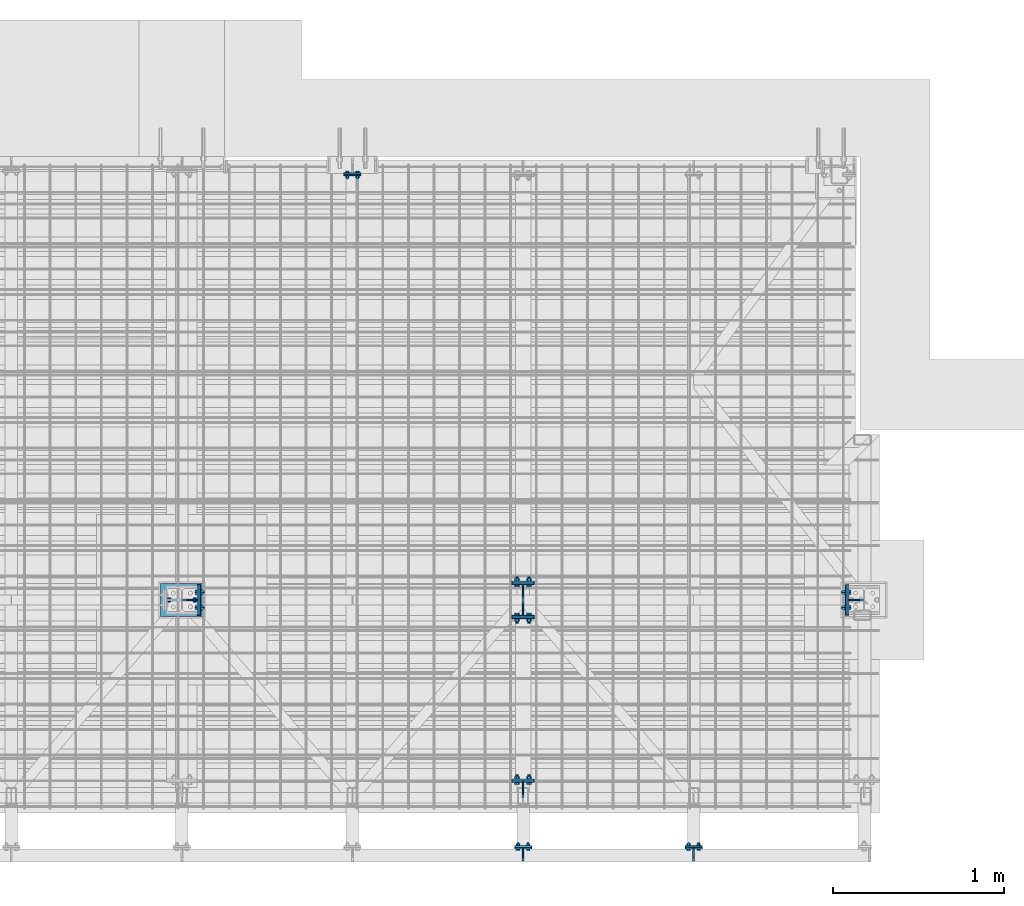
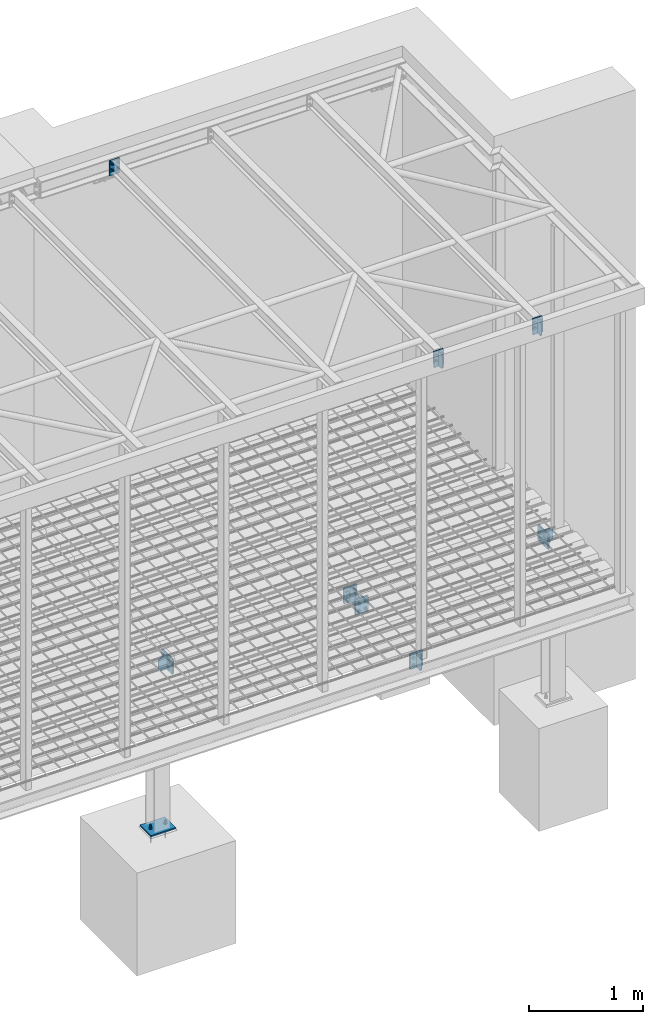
# One storey, part 22 of 26: 24 discrete accessories, 9 mechanical fasteners, 12 elements without a shape of their own.
"""IFC2X3 building model written with IfcOpenShell, lengths in millimetres."""

from ifc_helpers import new_model, si_unit, frame, frame_2d, origin_with_axes, origin_2d_with_axis, place, context, subcontext, project, spatial, polyline, circle_curve, parameter, trimmed, segment, composite_curve, circle, outline, extrude, source, transform, mapped, material, type_object, element, aggregate, save


model = new_model("IFC2X3")

# Units and contexts
model_context = context("Model", 3, precision=1e-05, world=origin_with_axes())
body_context = subcontext(model_context, "Body", "Model", "MODEL_VIEW")
ifc_project = project(units=[si_unit("LENGTHUNIT", "METRE", prefix="MILLI"), si_unit("AREAUNIT", "SQUARE_METRE"), si_unit("VOLUMEUNIT", "CUBIC_METRE"), si_unit("MASSUNIT", "GRAM", prefix="KILO"), si_unit("TIMEUNIT", "SECOND"), si_unit("PLANEANGLEUNIT", "RADIAN"), si_unit("SOLIDANGLEUNIT", "STERADIAN"), si_unit("THERMODYNAMICTEMPERATUREUNIT", "DEGREE_CELSIUS"), si_unit("LUMINOUSINTENSITYUNIT", "LUMEN")], contexts=[model_context])

# Site, building, storey
site_placement = place(None, origin_with_axes())
site = spatial("IfcSite", under=ifc_project, at=site_placement, Name="Undefined", CompositionType="ELEMENT")
building_placement = place(site_placement, origin_with_axes())
building = spatial("IfcBuilding", under=site, at=building_placement, Name="Undefined", CompositionType="ELEMENT")
storey_placement = place(building_placement, origin_with_axes())
storey = spatial("IfcBuildingStorey", under=building, at=storey_placement, Name="Undefined", CompositionType="ELEMENT", Elevation=0.0)

# Assembly, mechanical fastener
assembly_1_placement = place(storey_placement, origin_with_axes())
assembly_1 = element("IfcElementAssembly", 1, at=assembly_1_placement, inside=storey, Name="Steel Assembly", AssemblyPlace="NOTDEFINED", PredefinedType="RIGID_FRAME")
ifc_material_1 = material(Name="Undefined")
discrete_accessory_type_1 = type_object("IfcDiscreteAccessoryType", Name="Bolt assembly")
shared_shape_1 = source(origin_with_axes(), body_context, "Body", "SweptSolid", [
    extrude(circle(Radius=9.0, at=origin_2d_with_axis()), frame((0.0, -15.0, 0.0), z_axis=(0.0, 1.0, 0.0), x_axis=(1.0, 0.0, 0.0)), (0.0, 0.0, 1.0), 15.1),
    extrude(outline(polyline([(7.73649338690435, 0.0), (3.86824669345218, 6.69999980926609), (-3.86824669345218, 6.69999980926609), (-7.73649338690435, 0.0), (-3.86824669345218, -6.69999980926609), (3.86824669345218, -6.69999980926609), (7.73649338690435, 0.0)])), frame((0.0, -147.0, 0.0), z_axis=(0.0, 1.0, 0.0), x_axis=(1.0, 0.0, 0.0)), (0.0, 0.0, 1.0), 132.0),
    extrude(circle(Radius=8.0, at=origin_2d_with_axis()), frame((0.0, -15.0, 0.0), z_axis=(0.0, 1.0, 0.0), x_axis=(1.0, 0.0, 0.0)), (0.0, 0.0, 1.0), 58.0),
    extrude(circle(Radius=15.0, at=origin_2d_with_axis()), frame((0.0, 0.0, 0.0), z_axis=(0.0, 1.0, 0.0), x_axis=(1.0, 0.0, 0.0)), (0.0, 0.0, 1.0), 3.0),
    extrude(outline(polyline([(15.4441197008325, 0.0), (7.72205985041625, 13.3750000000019), (-7.72205985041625, 13.3750000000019), (-15.4441197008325, 0.0), (-7.72205985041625, -13.3750000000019), (7.72205985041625, -13.3750000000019), (15.4441197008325, 0.0)])), frame((0.0, 3.0, 0.0), z_axis=(0.0, 1.0, 0.0), x_axis=(1.0, 0.0, 0.0)), (0.0, 0.0, 1.0), 13.0),
])
mechanical_fastener_1_placement = place(assembly_1_placement, frame((11975.0, 1260.0, -1975.0), z_axis=(0.0, -1.0, 0.0), x_axis=(1.0, 0.0, 0.0)))
mechanical_fastener_1 = element("IfcMechanicalFastener", 2, at=mechanical_fastener_1_placement, type_object=discrete_accessory_type_1, material=ifc_material_1, Name="Bolt assembly", NominalDiameter=16.0, NominalLength=58.0, context=body_context, shape_type="MappedRepresentation", body=[
    mapped(shared_shape_1, transform((0.0, 0.0, 0.0))),
    mapped(shared_shape_1, transform((150.0, 0.0, 0.0))),
])

# Assembly, mechanical fasteners
assembly_2_placement = place(storey_placement, origin_with_axes())
assembly_2 = element("IfcElementAssembly", 3, at=assembly_2_placement, inside=storey, Name="Steel Assembly", AssemblyPlace="NOTDEFINED", PredefinedType="RIGID_FRAME")
shared_shape_2 = source(origin_with_axes(), body_context, "Body", "SweptSolid", [
    extrude(circle(Radius=9.0, at=origin_2d_with_axis()), frame((0.0, -0.1, 0.0), z_axis=(0.0, 1.0, 0.0), x_axis=(1.0, 0.0, 0.0)), (0.0, 0.0, 1.0), 10.1),
    extrude(circle(Radius=9.0, at=origin_2d_with_axis()), frame((0.0, -9.9, 0.0), z_axis=(0.0, 1.0, 0.0), x_axis=(1.0, 0.0, 0.0)), (0.0, 0.0, 1.0), 10.0),
    extrude(outline(polyline([(13.85640646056, 0.0), (6.92820323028, 12.0000000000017), (-6.92820323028, 12.0000000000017), (-13.85640646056, 0.0), (-6.92820323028, -12.0000000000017), (6.92820323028, -12.0000000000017), (13.85640646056, 0.0)])), frame((0.0, -23.0, 0.0), z_axis=(0.0, 1.0, 0.0), x_axis=(1.0, 0.0, 0.0)), (0.0, 0.0, 1.0), 10.0),
    extrude(circle(Radius=8.0, at=origin_2d_with_axis()), frame((0.0, -13.0, 0.0), z_axis=(0.0, 1.0, 0.0), x_axis=(1.0, 0.0, 0.0)), (0.0, 0.0, 1.0), 50.0),
    extrude(circle(Radius=15.0, at=origin_2d_with_axis()), frame((0.0, -13.0, 0.0), z_axis=(0.0, 1.0, 0.0), x_axis=(1.0, 0.0, 0.0)), (0.0, 0.0, 1.0), 3.0),
    extrude(circle(Radius=15.0, at=origin_2d_with_axis()), frame((0.0, 10.0, 0.0), z_axis=(0.0, 1.0, 0.0), x_axis=(1.0, 0.0, 0.0)), (0.0, 0.0, 1.0), 3.0),
    extrude(outline(polyline([(15.4441197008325, 0.0), (7.72205985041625, 13.3750000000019), (-7.72205985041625, 13.3750000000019), (-15.4441197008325, 0.0), (-7.72205985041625, -13.3750000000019), (7.72205985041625, -13.3750000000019), (15.4441197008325, 0.0)])), frame((0.0, 13.0, 0.0), z_axis=(0.0, 1.0, 0.0), x_axis=(1.0, 0.0, 0.0)), (0.0, 0.0, 1.0), 13.0),
])
mechanical_fastener_2_placement = place(assembly_2_placement, frame((14015.0, 1360.0, -250.0), z_axis=(0.0, 0.0, 1.0), x_axis=(1.0, 0.0, 0.0)))
mechanical_fastener_2 = element("IfcMechanicalFastener", 4, at=mechanical_fastener_2_placement, type_object=discrete_accessory_type_1, material=ifc_material_1, Name="Bolt assembly", NominalDiameter=16.0, NominalLength=50.0, context=body_context, shape_type="MappedRepresentation", body=[
    mapped(shared_shape_2, transform((0.0, 0.0, -40.0))),
    mapped(shared_shape_2, transform((70.0, 0.0, -40.0))),
    mapped(shared_shape_2, transform((0.0, 0.0, 40.0))),
    mapped(shared_shape_2, transform((70.0, 0.0, 40.0))),
])
mechanical_fastener_3_placement = place(assembly_2_placement, frame((14015.0, 1160.0, -250.0), z_axis=(0.0, 0.0, -1.0), x_axis=(1.0, 0.0, 0.0)))
mechanical_fastener_3 = element("IfcMechanicalFastener", 5, at=mechanical_fastener_3_placement, type_object=discrete_accessory_type_1, material=ifc_material_1, Name="Bolt assembly", NominalDiameter=16.0, NominalLength=50.0, context=body_context, shape_type="MappedRepresentation", body=[
    mapped(shared_shape_2, transform((0.0, 0.0, 40.0))),
    mapped(shared_shape_2, transform((70.0, 0.0, 40.0))),
    mapped(shared_shape_2, transform((0.0, 0.0, -40.0))),
    mapped(shared_shape_2, transform((70.0, 0.0, -40.0))),
])

# Assembly, mechanical fastener
assembly_3_placement = place(storey_placement, origin_with_axes())
assembly_3 = element("IfcElementAssembly", 6, at=assembly_3_placement, inside=storey, Name="Steel Assembly", AssemblyPlace="NOTDEFINED", PredefinedType="RIGID_FRAME")
mechanical_fastener_4_placement = place(assembly_3_placement, frame((14015.0, 200.0, -250.0), z_axis=(0.0, 0.0, 1.0), x_axis=(1.0, 0.0, 0.0)))
mechanical_fastener_4 = element("IfcMechanicalFastener", 7, at=mechanical_fastener_4_placement, type_object=discrete_accessory_type_1, material=ifc_material_1, Name="Bolt assembly", NominalDiameter=16.0, NominalLength=50.0, context=body_context, shape_type="MappedRepresentation", body=[
    mapped(shared_shape_2, transform((0.0, 0.0, -40.0))),
    mapped(shared_shape_2, transform((70.0, 0.0, -40.0))),
    mapped(shared_shape_2, transform((0.0, 0.0, 40.0))),
    mapped(shared_shape_2, transform((70.0, 0.0, 40.0))),
])

# Discrete accessory
ifc_material_2 = material(Name="STEEL/S235JR")
discrete_accessory_type_2 = type_object("IfcDiscreteAccessoryType", Name="PLECH")
discrete_accessory_1_placement = place(assembly_2_placement, frame((13985.0, 1355.0, -168.0), z_axis=(0.0, 1.0, 0.0), x_axis=(1.0, 0.0, 0.0)))
discrete_accessory_1 = element("IfcDiscreteAccessory", 8, at=discrete_accessory_1_placement, type_object=discrete_accessory_type_2, material=ifc_material_2, Name="PLECH", ObjectType="PL10*130", context=body_context, shape_type="SweptSolid", body=[
    extrude(outline(polyline([(0.0, 0.0), (130.0, 0.0), (130.0, 164.0), (0.0, 164.0), (0.0, 0.0)])), frame((0.0, 0.0, -5.0), z_axis=(0.0, 0.0, 1.0), x_axis=(1.0, 0.0, 0.0)), (0.0, 0.0, 1.0), 10.0),
])

discrete_accessory_2_placement = place(assembly_2_placement, frame((14050.0, 1350.0, -174.0), z_axis=(1.0, 0.0, 0.0), x_axis=(0.0, -1.0, 0.0)))
discrete_accessory_2 = element("IfcDiscreteAccessory", 9, at=discrete_accessory_2_placement, type_object=discrete_accessory_type_2, material=ifc_material_2, Name="PLECH", ObjectType="PL8*86", context=body_context, shape_type="SweptSolid", body=[
    extrude(outline(composite_curve([segment(polyline([(0.0, 0.0), (65.75, 0.0)]), True, "CONTINUOUS"), segment(trimmed(circle_curve(frame_2d((85.75, 0.0), x_axis=(-1.0, 0.0)), 20.0), [parameter(0.0)], [parameter(4.71238898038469)], False, "PARAMETER"), True, "CONTINUOUS"), segment(polyline([(85.75, 20.0), (85.75, 132.0)]), True, "CONTINUOUS"), segment(trimmed(circle_curve(frame_2d((85.75, 152.0), x_axis=(0.0, -1.0)), 20.0), [parameter(0.0)], [parameter(4.71238898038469)], False, "PARAMETER"), True, "CONTINUOUS"), segment(polyline([(65.75, 152.0), (0.0, 152.0), (0.0, 0.0)]), True, "DISCONTINUOUS")], self_intersect=False)), frame((0.0, 0.0, -4.0), z_axis=(0.0, 0.0, 1.0), x_axis=(1.0, 0.0, 0.0)), (0.0, 0.0, 1.0), 8.0),
])

# Assembly, discrete accessory
assembly_4_placement = place(storey_placement, origin_with_axes())
assembly_4 = element("IfcElementAssembly", 10, at=assembly_4_placement, inside=storey, Name="Steel Assembly", AssemblyPlace="NOTDEFINED", PredefinedType="RIGID_FRAME")
discrete_accessory_3_placement = place(assembly_4_placement, frame((13985.0, 1365.0, -168.0), z_axis=(0.0, 1.0, 0.0), x_axis=(1.0, 0.0, 0.0)))
discrete_accessory_3 = element("IfcDiscreteAccessory", 11, at=discrete_accessory_3_placement, type_object=discrete_accessory_type_2, material=ifc_material_2, Name="PLECH", ObjectType="PL10*130", context=body_context, shape_type="SweptSolid", body=[
    extrude(outline(polyline([(0.0, 0.0), (130.0, 0.0), (130.0, 164.0), (0.0, 164.0), (0.0, 0.0)])), frame((0.0, 0.0, -5.0), z_axis=(0.0, 0.0, 1.0), x_axis=(1.0, 0.0, 0.0)), (0.0, 0.0, 1.0), 10.0),
])
aggregate(assembly_4, [discrete_accessory_3])

# Discrete accessory
discrete_accessory_4_placement = place(assembly_2_placement, frame((13985.0, 1165.0, -168.0), z_axis=(0.0, 1.0, 0.0), x_axis=(1.0, 0.0, 0.0)))
discrete_accessory_4 = element("IfcDiscreteAccessory", 12, at=discrete_accessory_4_placement, type_object=discrete_accessory_type_2, material=ifc_material_2, Name="PLECH", ObjectType="PL10*130", context=body_context, shape_type="SweptSolid", body=[
    extrude(outline(polyline([(0.0, 0.0), (130.0, 0.0), (130.0, 164.0), (0.0, 164.0), (0.0, 0.0)])), frame((0.0, 0.0, -5.0), z_axis=(0.0, 0.0, 1.0), x_axis=(1.0, 0.0, 0.0)), (0.0, 0.0, 1.0), 10.0),
])

discrete_accessory_5_placement = place(assembly_2_placement, frame((14050.0, 1170.0, -174.0), z_axis=(-1.0, 0.0, 0.0), x_axis=(0.0, 1.0, 0.0)))
discrete_accessory_5 = element("IfcDiscreteAccessory", 13, at=discrete_accessory_5_placement, type_object=discrete_accessory_type_2, material=ifc_material_2, Name="PLECH", ObjectType="PL8*86", context=body_context, shape_type="SweptSolid", body=[
    extrude(outline(composite_curve([segment(polyline([(0.0, 0.0), (65.75, 0.0)]), True, "CONTINUOUS"), segment(trimmed(circle_curve(frame_2d((85.75, 0.0), x_axis=(-1.0, 0.0)), 20.0), [parameter(0.0)], [parameter(4.71238898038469)], False, "PARAMETER"), True, "CONTINUOUS"), segment(polyline([(85.75, 20.0), (85.75, 132.0)]), True, "CONTINUOUS"), segment(trimmed(circle_curve(frame_2d((85.75, 152.0), x_axis=(0.0, -1.0)), 20.0), [parameter(0.0)], [parameter(4.71238898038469)], False, "PARAMETER"), True, "CONTINUOUS"), segment(polyline([(65.75, 152.0), (0.0, 152.0), (0.0, 0.0)]), True, "DISCONTINUOUS")], self_intersect=False)), frame((0.0, 0.0, -4.0), z_axis=(0.0, 0.0, 1.0), x_axis=(1.0, 0.0, 0.0)), (0.0, 0.0, 1.0), 8.0),
])

# Assembly, discrete accessory
assembly_5_placement = place(storey_placement, origin_with_axes())
assembly_5 = element("IfcElementAssembly", 14, at=assembly_5_placement, inside=storey, Name="Steel Assembly", AssemblyPlace="NOTDEFINED", PredefinedType="RIGID_FRAME")
discrete_accessory_6_placement = place(assembly_5_placement, frame((13985.0, 1155.0, -168.0), z_axis=(0.0, 1.0, 0.0), x_axis=(1.0, 0.0, 0.0)))
discrete_accessory_6 = element("IfcDiscreteAccessory", 15, at=discrete_accessory_6_placement, type_object=discrete_accessory_type_2, material=ifc_material_2, Name="PLECH", ObjectType="PL10*130", context=body_context, shape_type="SweptSolid", body=[
    extrude(outline(polyline([(0.0, 0.0), (130.0, 0.0), (130.0, 164.0), (0.0, 164.0), (0.0, 0.0)])), frame((0.0, 0.0, -5.0), z_axis=(0.0, 0.0, 1.0), x_axis=(1.0, 0.0, 0.0)), (0.0, 0.0, 1.0), 10.0),
])

# Discrete accessory
discrete_accessory_7_placement = place(assembly_3_placement, frame((13985.0, 195.0, -168.0), z_axis=(0.0, 1.0, 0.0), x_axis=(1.0, 0.0, 0.0)))
discrete_accessory_7 = element("IfcDiscreteAccessory", 16, at=discrete_accessory_7_placement, type_object=discrete_accessory_type_2, material=ifc_material_2, Name="PLECH", ObjectType="PL10*130", context=body_context, shape_type="SweptSolid", body=[
    extrude(outline(polyline([(0.0, 0.0), (130.0, 0.0), (130.0, 164.0), (0.0, 164.0), (0.0, 0.0)])), frame((0.0, 0.0, -5.0), z_axis=(0.0, 0.0, 1.0), x_axis=(1.0, 0.0, 0.0)), (0.0, 0.0, 1.0), 10.0),
])

discrete_accessory_8_placement = place(assembly_3_placement, frame((14050.0, 190.0, -174.0), z_axis=(1.0, 0.0, 0.0), x_axis=(0.0, -1.0, 0.0)))
discrete_accessory_8 = element("IfcDiscreteAccessory", 17, at=discrete_accessory_8_placement, type_object=discrete_accessory_type_2, material=ifc_material_2, Name="PLECH", ObjectType="PL8*86", context=body_context, shape_type="SweptSolid", body=[
    extrude(outline(composite_curve([segment(polyline([(0.0, 0.0), (65.75, 0.0)]), True, "CONTINUOUS"), segment(trimmed(circle_curve(frame_2d((85.75, 0.0), x_axis=(-1.0, 0.0)), 20.0), [parameter(0.0)], [parameter(4.71238898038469)], False, "PARAMETER"), True, "CONTINUOUS"), segment(polyline([(85.75, 20.0), (85.75, 132.0)]), True, "CONTINUOUS"), segment(trimmed(circle_curve(frame_2d((85.75, 152.0), x_axis=(0.0, -1.0)), 20.0), [parameter(0.0)], [parameter(4.71238898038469)], False, "PARAMETER"), True, "CONTINUOUS"), segment(polyline([(65.75, 152.0), (0.0, 152.0), (0.0, 0.0)]), True, "DISCONTINUOUS")], self_intersect=False)), frame((0.0, 0.0, -4.0), z_axis=(0.0, 0.0, 1.0), x_axis=(1.0, 0.0, 0.0)), (0.0, 0.0, 1.0), 8.0),
])

aggregate(assembly_3, [mechanical_fastener_4, discrete_accessory_7, discrete_accessory_8])

discrete_accessory_9_placement = place(assembly_5_placement, frame((13985.0, 205.0, -168.0), z_axis=(0.0, 1.0, 0.0), x_axis=(1.0, 0.0, 0.0)))
discrete_accessory_9 = element("IfcDiscreteAccessory", 18, at=discrete_accessory_9_placement, type_object=discrete_accessory_type_2, material=ifc_material_2, Name="PLECH", ObjectType="PL10*130", context=body_context, shape_type="SweptSolid", body=[
    extrude(outline(polyline([(0.0, 0.0), (130.0, 0.0), (130.0, 164.0), (0.0, 164.0), (0.0, 0.0)])), frame((0.0, 0.0, -5.0), z_axis=(0.0, 0.0, 1.0), x_axis=(1.0, 0.0, 0.0)), (0.0, 0.0, 1.0), 10.0),
])

aggregate(assembly_5, [discrete_accessory_6, discrete_accessory_9])

discrete_accessory_10_placement = place(assembly_2_placement, frame((15945.0, 1170.0, -326.0), z_axis=(-1.0, 0.0, 0.0), x_axis=(0.0, 0.0, 1.0)))
discrete_accessory_10 = element("IfcDiscreteAccessory", 19, at=discrete_accessory_10_placement, type_object=discrete_accessory_type_2, material=ifc_material_2, Name="PLECH", ObjectType="PL10*152", context=body_context, shape_type="SweptSolid", body=[
    extrude(outline(polyline([(0.0, 0.0), (152.0, 4.54747350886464e-13), (152.0, 180.0), (-5.6843418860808e-14, 180.0), (0.0, 0.0)])), frame((0.0, 0.0, -5.0), z_axis=(0.0, 0.0, 1.0), x_axis=(1.0, 0.0, 0.0)), (0.0, 0.0, 1.0), 10.0),
])

# Assembly, discrete accessory
assembly_6_placement = place(storey_placement, origin_with_axes())
assembly_6 = element("IfcElementAssembly", 20, at=assembly_6_placement, inside=storey, Name="Steel Assembly", AssemblyPlace="NOTDEFINED", PredefinedType="RIGID_FRAME")
discrete_accessory_11_placement = place(assembly_6_placement, frame((15050.0, -200.0, 3289.5), z_axis=(1.0, 0.0, 0.0), x_axis=(0.0, -1.0, 0.0)))
discrete_accessory_11 = element("IfcDiscreteAccessory", 21, at=discrete_accessory_11_placement, type_object=discrete_accessory_type_2, material=ifc_material_2, Name="PLECH", ObjectType="PL8*70", context=body_context, shape_type="SweptSolid", body=[
    extrude(outline(composite_curve([segment(polyline([(0.0, 0.0), (49.5, 0.0)]), True, "CONTINUOUS"), segment(trimmed(circle_curve(frame_2d((69.5, 0.0), x_axis=(-1.0, 0.0)), 20.0), [parameter(0.0)], [parameter(4.71238898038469)], False, "PARAMETER"), True, "CONTINUOUS"), segment(polyline([(69.5, 20.0), (69.5, 139.0)]), True, "CONTINUOUS"), segment(trimmed(circle_curve(frame_2d((69.5, 159.0), x_axis=(0.0, -1.0)), 20.0), [parameter(0.0)], [parameter(4.71238898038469)], False, "PARAMETER"), True, "CONTINUOUS"), segment(polyline([(49.5, 159.0), (-3.63797880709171e-12, 159.0), (0.0, 0.0)]), True, "DISCONTINUOUS")], self_intersect=False)), frame((0.0, 0.0, -4.0), z_axis=(0.0, 0.0, 1.0), x_axis=(1.0, 0.0, 0.0)), (0.0, 0.0, 1.0), 8.0),
])

assembly_7_placement = place(storey_placement, origin_with_axes())
assembly_7 = element("IfcElementAssembly", 22, at=assembly_7_placement, inside=storey, Name="Steel Assembly", AssemblyPlace="NOTDEFINED", PredefinedType="RIGID_FRAME")
discrete_accessory_12_placement = place(assembly_7_placement, frame((15000.0, -185.0, 3166.5), z_axis=(0.0, 1.0, 0.0), x_axis=(0.0, 0.0, 1.0)))
discrete_accessory_12 = element("IfcDiscreteAccessory", 23, at=discrete_accessory_12_placement, type_object=discrete_accessory_type_2, material=ifc_material_2, Name="PLECH", ObjectType="PL10*100", context=body_context, shape_type="SweptSolid", body=[
    extrude(outline(polyline([(0.0, 0.0), (127.0, 0.0), (127.0, 100.0), (-9.09494701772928e-13, 100.0), (0.0, 0.0)])), frame((0.0, 0.0, -5.0), z_axis=(0.0, 0.0, 1.0), x_axis=(1.0, 0.0, 0.0)), (0.0, 0.0, 1.0), 10.0),
])
aggregate(assembly_7, [discrete_accessory_12])

# Discrete accessory
discrete_accessory_13_placement = place(assembly_6_placement, frame((15000.0, -195.0, 3127.5), z_axis=(0.0, 1.0, 0.0), x_axis=(0.0, 0.0, 1.0)))
discrete_accessory_13 = element("IfcDiscreteAccessory", 24, at=discrete_accessory_13_placement, type_object=discrete_accessory_type_2, material=ifc_material_2, Name="PLECH", ObjectType="PL10*100", context=body_context, shape_type="SweptSolid", body=[
    extrude(outline(polyline([(0.0, 0.0), (166.000015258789, 0.0), (166.000015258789, 100.0), (-9.09494701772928e-13, 100.0), (0.0, 0.0)])), frame((0.0, 0.0, -5.0), z_axis=(0.0, 0.0, 1.0), x_axis=(1.0, 0.0, 0.0)), (0.0, 0.0, 1.0), 10.0),
])

discrete_accessory_14_placement = place(assembly_6_placement, frame((14050.0, -200.0, 3289.5), z_axis=(1.0, 0.0, 0.0), x_axis=(0.0, -1.0, 0.0)))
discrete_accessory_14 = element("IfcDiscreteAccessory", 25, at=discrete_accessory_14_placement, type_object=discrete_accessory_type_2, material=ifc_material_2, Name="PLECH", ObjectType="PL8*70", context=body_context, shape_type="SweptSolid", body=[
    extrude(outline(composite_curve([segment(polyline([(0.0, 0.0), (49.5, 0.0)]), True, "CONTINUOUS"), segment(trimmed(circle_curve(frame_2d((69.5, 0.0), x_axis=(-1.0, 0.0)), 20.0), [parameter(0.0)], [parameter(4.71238898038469)], False, "PARAMETER"), True, "CONTINUOUS"), segment(polyline([(69.5, 20.0), (69.5, 139.0)]), True, "CONTINUOUS"), segment(trimmed(circle_curve(frame_2d((69.5, 159.0), x_axis=(0.0, -1.0)), 20.0), [parameter(0.0)], [parameter(4.71238898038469)], False, "PARAMETER"), True, "CONTINUOUS"), segment(polyline([(49.5, 159.0), (-3.63797880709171e-12, 159.0), (0.0, 0.0)]), True, "DISCONTINUOUS")], self_intersect=False)), frame((0.0, 0.0, -4.0), z_axis=(0.0, 0.0, 1.0), x_axis=(1.0, 0.0, 0.0)), (0.0, 0.0, 1.0), 8.0),
])

# Assembly, discrete accessory
assembly_8_placement = place(storey_placement, origin_with_axes())
assembly_8 = element("IfcElementAssembly", 26, at=assembly_8_placement, inside=storey, Name="Steel Assembly", AssemblyPlace="NOTDEFINED", PredefinedType="RIGID_FRAME")
discrete_accessory_15_placement = place(assembly_8_placement, frame((14000.0, -185.0, 3166.5), z_axis=(0.0, 1.0, 0.0), x_axis=(0.0, 0.0, 1.0)))
discrete_accessory_15 = element("IfcDiscreteAccessory", 27, at=discrete_accessory_15_placement, type_object=discrete_accessory_type_2, material=ifc_material_2, Name="PLECH", ObjectType="PL10*100", context=body_context, shape_type="SweptSolid", body=[
    extrude(outline(polyline([(0.0, 0.0), (127.0, 0.0), (127.0, 100.0), (-9.09494701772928e-13, 100.0), (0.0, 0.0)])), frame((0.0, 0.0, -5.0), z_axis=(0.0, 0.0, 1.0), x_axis=(1.0, 0.0, 0.0)), (0.0, 0.0, 1.0), 10.0),
])
aggregate(assembly_8, [discrete_accessory_15])

# Discrete accessory
discrete_accessory_16_placement = place(assembly_6_placement, frame((14000.0, -195.0, 3127.5), z_axis=(0.0, 1.0, 0.0), x_axis=(0.0, 0.0, 1.0)))
discrete_accessory_16 = element("IfcDiscreteAccessory", 28, at=discrete_accessory_16_placement, type_object=discrete_accessory_type_2, material=ifc_material_2, Name="PLECH", ObjectType="PL10*100", context=body_context, shape_type="SweptSolid", body=[
    extrude(outline(polyline([(0.0, 0.0), (166.000015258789, 0.0), (166.000015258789, 100.0), (-9.09494701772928e-13, 100.0), (0.0, 0.0)])), frame((0.0, 0.0, -5.0), z_axis=(0.0, 0.0, 1.0), x_axis=(1.0, 0.0, 0.0)), (0.0, 0.0, 1.0), 10.0),
])

# Assembly, discrete accessories
assembly_9_placement = place(storey_placement, origin_with_axes())
assembly_9 = element("IfcElementAssembly", 29, at=assembly_9_placement, inside=storey, Name="Steel Assembly", AssemblyPlace="NOTDEFINED", PredefinedType="RIGID_FRAME")
discrete_accessory_17_placement = place(assembly_9_placement, frame((15960.0, 1260.0, -174.0), z_axis=(0.0, 1.0, 0.0), x_axis=(1.0, 0.0, 0.0)))
discrete_accessory_17 = element("IfcDiscreteAccessory", 30, at=discrete_accessory_17_placement, type_object=discrete_accessory_type_2, material=ifc_material_2, Name="PLECH", ObjectType="PL8*86", context=body_context, shape_type="SweptSolid", body=[
    extrude(outline(composite_curve([segment(polyline([(0.0, 0.0), (60.5, 0.0)]), True, "CONTINUOUS"), segment(trimmed(circle_curve(frame_2d((85.5, 0.0), x_axis=(-1.0, 0.0)), 25.0), [parameter(0.0)], [parameter(4.71238898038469)], False, "PARAMETER"), True, "CONTINUOUS"), segment(polyline([(85.5, 25.0), (85.5, 127.0)]), True, "CONTINUOUS"), segment(trimmed(circle_curve(frame_2d((85.5, 152.0), x_axis=(0.0, -1.0)), 25.0), [parameter(0.0)], [parameter(4.71238898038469)], False, "PARAMETER"), True, "CONTINUOUS"), segment(polyline([(60.5, 152.0), (0.0, 152.0), (0.0, 0.0)]), True, "DISCONTINUOUS")], self_intersect=False)), frame((0.0, 0.0, -4.0), z_axis=(0.0, 0.0, 1.0), x_axis=(1.0, 0.0, 0.0)), (0.0, 0.0, 1.0), 8.0),
])
discrete_accessory_18_placement = place(assembly_9_placement, frame((15955.0, 1170.0, -332.0), z_axis=(-1.0, 0.0, 0.0), x_axis=(0.0, 0.0, 1.0)))
discrete_accessory_18 = element("IfcDiscreteAccessory", 31, at=discrete_accessory_18_placement, type_object=discrete_accessory_type_2, material=ifc_material_2, Name="PLECH", ObjectType="PL10*164", context=body_context, shape_type="SweptSolid", body=[
    extrude(outline(polyline([(0.0, 0.0), (164.0, 4.54747350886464e-13), (164.0, 180.0), (-5.6843418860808e-14, 180.0), (0.0, 0.0)])), frame((0.0, 0.0, -5.0), z_axis=(0.0, 0.0, 1.0), x_axis=(1.0, 0.0, 0.0)), (0.0, 0.0, 1.0), 10.0),
])

# Discrete accessory
discrete_accessory_19_placement = place(assembly_2_placement, frame((12155.0, 1170.0, -326.0), z_axis=(-1.0, 0.0, 0.0), x_axis=(0.0, 0.0, 1.0)))
discrete_accessory_19 = element("IfcDiscreteAccessory", 32, at=discrete_accessory_19_placement, type_object=discrete_accessory_type_2, material=ifc_material_2, Name="PLECH", ObjectType="PL10*152", context=body_context, shape_type="SweptSolid", body=[
    extrude(outline(polyline([(0.0, 0.0), (152.0, 4.54747350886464e-13), (152.0, 180.0), (-5.6843418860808e-14, 180.0), (0.0, 0.0)])), frame((0.0, 0.0, -5.0), z_axis=(0.0, 0.0, 1.0), x_axis=(1.0, 0.0, 0.0)), (0.0, 0.0, 1.0), 10.0),
])

aggregate(assembly_2, [mechanical_fastener_2, discrete_accessory_1, discrete_accessory_2, mechanical_fastener_3, discrete_accessory_4, discrete_accessory_5, discrete_accessory_10, discrete_accessory_19])

# Assembly, discrete accessories
assembly_10_placement = place(storey_placement, origin_with_axes())
assembly_10 = element("IfcElementAssembly", 33, at=assembly_10_placement, inside=storey, Name="Steel Assembly", AssemblyPlace="NOTDEFINED", PredefinedType="RIGID_FRAME")
discrete_accessory_20_placement = place(assembly_10_placement, frame((12140.0, 1260.0, -174.0), z_axis=(0.0, -1.0, 0.0), x_axis=(-1.0, 0.0, 0.0)))
discrete_accessory_20 = element("IfcDiscreteAccessory", 34, at=discrete_accessory_20_placement, type_object=discrete_accessory_type_2, material=ifc_material_2, Name="PLECH", ObjectType="PL8*86", context=body_context, shape_type="SweptSolid", body=[
    extrude(outline(composite_curve([segment(polyline([(0.0, 0.0), (60.5, 0.0)]), True, "CONTINUOUS"), segment(trimmed(circle_curve(frame_2d((85.5, 0.0), x_axis=(-1.0, 0.0)), 25.0), [parameter(0.0)], [parameter(4.71238898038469)], False, "PARAMETER"), True, "CONTINUOUS"), segment(polyline([(85.5, 25.0), (85.5, 127.0)]), True, "CONTINUOUS"), segment(trimmed(circle_curve(frame_2d((85.5, 152.0), x_axis=(0.0, -1.0)), 25.0), [parameter(0.0)], [parameter(4.71238898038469)], False, "PARAMETER"), True, "CONTINUOUS"), segment(polyline([(60.5, 152.0), (0.0, 152.0), (0.0, 0.0)]), True, "DISCONTINUOUS")], self_intersect=False)), frame((0.0, 0.0, -4.0), z_axis=(0.0, 0.0, 1.0), x_axis=(1.0, 0.0, 0.0)), (0.0, 0.0, 1.0), 8.0),
])
discrete_accessory_21_placement = place(assembly_10_placement, frame((12145.0, 1170.0, -332.0), z_axis=(-1.0, 0.0, 0.0), x_axis=(0.0, 0.0, 1.0)))
discrete_accessory_21 = element("IfcDiscreteAccessory", 35, at=discrete_accessory_21_placement, type_object=discrete_accessory_type_2, material=ifc_material_2, Name="PLECH", ObjectType="PL10*164", context=body_context, shape_type="SweptSolid", body=[
    extrude(outline(polyline([(0.0, 0.0), (164.0, 4.54747350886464e-13), (164.0, 180.0), (-5.6843418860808e-14, 180.0), (0.0, 0.0)])), frame((0.0, 0.0, -5.0), z_axis=(0.0, 0.0, 1.0), x_axis=(1.0, 0.0, 0.0)), (0.0, 0.0, 1.0), 10.0),
])

# Discrete accessory
discrete_accessory_22_placement = place(assembly_1_placement, frame((12175.0, 1356.0, -1982.5), z_axis=(0.0, 0.0, 1.0), x_axis=(-1.0, 0.0, 0.0)))
discrete_accessory_22 = element("IfcDiscreteAccessory", 36, at=discrete_accessory_22_placement, type_object=discrete_accessory_type_2, material=ifc_material_2, Name="PLECH", ObjectType="PL15*192", context=body_context, shape_type="SweptSolid", body=[
    extrude(outline(polyline([(0.0, 0.0), (250.0, 0.0), (250.0, 192.0), (0.0, 192.0), (0.0, 0.0)])), frame((0.0, 0.0, -7.5), z_axis=(0.0, 0.0, 1.0), x_axis=(1.0, 0.0, 0.0)), (0.0, 0.0, 1.0), 15.0),
])

aggregate(assembly_1, [mechanical_fastener_1, discrete_accessory_22])

# Assembly, discrete accessory
assembly_11_placement = place(storey_placement, origin_with_axes())
assembly_11 = element("IfcElementAssembly", 37, at=assembly_11_placement, inside=storey, Name="Steel Assembly", AssemblyPlace="NOTDEFINED", PredefinedType="RIGID_FRAME")
discrete_accessory_23_placement = place(assembly_11_placement, frame((13000.0, 3751.0, 3175.0), z_axis=(0.0, 1.0, 0.0), x_axis=(0.0, 0.0, 1.0)))
discrete_accessory_23 = element("IfcDiscreteAccessory", 38, at=discrete_accessory_23_placement, type_object=discrete_accessory_type_2, material=ifc_material_2, Name="PLECH", ObjectType="PL8*100", context=body_context, shape_type="SweptSolid", body=[
    extrude(outline(polyline([(0.0, 0.0), (110.0, 0.0), (110.0, 100.0), (-9.09494701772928e-13, 100.0), (0.0, 0.0)])), frame((0.0, 0.0, -4.0), z_axis=(0.0, 0.0, 1.0), x_axis=(1.0, 0.0, 0.0)), (0.0, 0.0, 1.0), 8.0),
])
aggregate(assembly_11, [discrete_accessory_23])

assembly_12_placement = place(storey_placement, origin_with_axes())
assembly_12 = element("IfcElementAssembly", 39, at=assembly_12_placement, inside=storey, Name="Steel Assembly", AssemblyPlace="NOTDEFINED", PredefinedType="RIGID_FRAME")
discrete_accessory_24_placement = place(assembly_12_placement, frame((13000.0, 3760.0, 3128.0), z_axis=(0.0, 1.0, 0.0), x_axis=(0.0, 0.0, 1.0)))
discrete_accessory_24 = element("IfcDiscreteAccessory", 40, at=discrete_accessory_24_placement, type_object=discrete_accessory_type_2, material=ifc_material_2, Name="PLECH", ObjectType="PL10*100", context=body_context, shape_type="SweptSolid", body=[
    extrude(outline(polyline([(0.0, 0.0), (164.0, 4.54747350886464e-13), (164.0, 100.0), (-9.09494701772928e-13, 100.0), (0.0, 0.0)])), frame((0.0, 0.0, -5.0), z_axis=(0.0, 0.0, 1.0), x_axis=(1.0, 0.0, 0.0)), (0.0, 0.0, 1.0), 10.0),
])

# Mechanical fastener
shared_shape_3 = source(origin_with_axes(), body_context, "Body", "SweptSolid", [
    extrude(circle(Radius=8.5, at=origin_2d_with_axis()), frame((0.0, -4.1, 0.0), z_axis=(0.0, 1.0, 0.0), x_axis=(1.0, 0.0, 0.0)), (0.0, 0.0, 1.0), 10.1),
    extrude(circle(Radius=8.5, at=origin_2d_with_axis()), frame((0.0, -13.9, 0.0), z_axis=(0.0, 1.0, 0.0), x_axis=(1.0, 0.0, 0.0)), (0.0, 0.0, 1.0), 10.0),
    extrude(outline(polyline([(13.85640646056, 0.0), (6.92820323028, 12.0000000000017), (-6.92820323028, 12.0000000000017), (-13.85640646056, 0.0), (-6.92820323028, -12.0000000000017), (6.92820323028, -12.0000000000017), (13.85640646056, 0.0)])), frame((0.0, -27.0, 0.0), z_axis=(0.0, 1.0, 0.0), x_axis=(1.0, 0.0, 0.0)), (0.0, 0.0, 1.0), 10.0),
    extrude(circle(Radius=8.0, at=origin_2d_with_axis()), frame((0.0, -17.0, 0.0), z_axis=(0.0, 1.0, 0.0), x_axis=(1.0, 0.0, 0.0)), (0.0, 0.0, 1.0), 45.0),
    extrude(circle(Radius=15.0, at=origin_2d_with_axis()), frame((0.0, -17.0, 0.0), z_axis=(0.0, 1.0, 0.0), x_axis=(1.0, 0.0, 0.0)), (0.0, 0.0, 1.0), 3.0),
    extrude(circle(Radius=15.0, at=origin_2d_with_axis()), frame((0.0, 6.0, 0.0), z_axis=(0.0, 1.0, 0.0), x_axis=(1.0, 0.0, 0.0)), (0.0, 0.0, 1.0), 3.0),
    extrude(outline(polyline([(15.4441197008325, 0.0), (7.72205985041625, 13.3750000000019), (-7.72205985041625, 13.3750000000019), (-15.4441197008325, 0.0), (-7.72205985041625, -13.3750000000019), (7.72205985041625, -13.3750000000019), (15.4441197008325, 0.0)])), frame((0.0, 9.0, 0.0), z_axis=(0.0, 1.0, 0.0), x_axis=(1.0, 0.0, 0.0)), (0.0, 0.0, 1.0), 13.0),
])
mechanical_fastener_5_placement = place(assembly_9_placement, frame((15946.0, 1260.0, -210.0), z_axis=(0.0, 1.0, 0.0), x_axis=(0.0, 0.0, -1.0)))
mechanical_fastener_5 = element("IfcMechanicalFastener", 41, at=mechanical_fastener_5_placement, type_object=discrete_accessory_type_1, material=ifc_material_1, Name="Bolt assembly", NominalDiameter=16.0, NominalLength=45.0, context=body_context, shape_type="MappedRepresentation", body=[
    mapped(shared_shape_3, transform((0.0, 0.0, -45.0))),
    mapped(shared_shape_3, transform((80.0, 0.0, -45.0))),
    mapped(shared_shape_3, transform((0.0, 0.0, 45.0))),
    mapped(shared_shape_3, transform((80.0, 0.0, 45.0))),
])

aggregate(assembly_9, [mechanical_fastener_5, discrete_accessory_17, discrete_accessory_18])

mechanical_fastener_6_placement = place(assembly_10_placement, frame((12154.0, 1260.0, -210.0), z_axis=(0.0, -1.0, 0.0), x_axis=(0.0, 0.0, -1.0)))
mechanical_fastener_6 = element("IfcMechanicalFastener", 42, at=mechanical_fastener_6_placement, type_object=discrete_accessory_type_1, material=ifc_material_1, Name="Bolt assembly", NominalDiameter=16.0, NominalLength=45.0, context=body_context, shape_type="MappedRepresentation", body=[
    mapped(shared_shape_3, transform((0.0, 0.0, -45.0))),
    mapped(shared_shape_3, transform((80.0, 0.0, -45.0))),
    mapped(shared_shape_3, transform((0.0, 0.0, 45.0))),
    mapped(shared_shape_3, transform((80.0, 0.0, 45.0))),
])

aggregate(assembly_10, [mechanical_fastener_6, discrete_accessory_20, discrete_accessory_21])

shared_shape_4 = source(origin_with_axes(), body_context, "Body", "SweptSolid", [
    extrude(circle(Radius=6.5, at=origin_2d_with_axis()), frame((0.0, -0.1, 0.0), z_axis=(0.0, 1.0, 0.0), x_axis=(1.0, 0.0, 0.0)), (0.0, 0.0, 1.0), 10.1),
    extrude(circle(Radius=6.5, at=origin_2d_with_axis()), frame((0.0, -9.9, 0.0), z_axis=(0.0, 1.0, 0.0), x_axis=(1.0, 0.0, 0.0)), (0.0, 0.0, 1.0), 10.0),
    extrude(outline(polyline([(10.96965511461, 0.0), (5.484827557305, 9.50000000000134), (-5.484827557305, 9.50000000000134), (-10.96965511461, 0.0), (-5.484827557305, -9.50000000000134), (5.484827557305, -9.50000000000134), (10.96965511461, 0.0)])), frame((0.0, -20.0, 0.0), z_axis=(0.0, 1.0, 0.0), x_axis=(1.0, 0.0, 0.0)), (0.0, 0.0, 1.0), 7.5),
    extrude(circle(Radius=6.0, at=origin_2d_with_axis()), frame((0.0, -12.5, 0.0), z_axis=(0.0, 1.0, 0.0), x_axis=(1.0, 0.0, 0.0)), (0.0, 0.0, 1.0), 40.0),
    extrude(circle(Radius=12.0, at=origin_2d_with_axis()), frame((0.0, -12.5, 0.0), z_axis=(0.0, 1.0, 0.0), x_axis=(1.0, 0.0, 0.0)), (0.0, 0.0, 1.0), 2.5),
    extrude(circle(Radius=12.0, at=origin_2d_with_axis()), frame((0.0, 10.0, 0.0), z_axis=(0.0, 1.0, 0.0), x_axis=(1.0, 0.0, 0.0)), (0.0, 0.0, 1.0), 2.5),
    extrude(outline(polyline([(10.96965511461, 0.0), (5.484827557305, 9.50000000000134), (-5.484827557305, 9.50000000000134), (-10.96965511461, 0.0), (-5.484827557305, -9.50000000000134), (5.484827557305, -9.50000000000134), (10.96965511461, 0.0)])), frame((0.0, 12.5, 0.0), z_axis=(0.0, 1.0, 0.0), x_axis=(1.0, 0.0, 0.0)), (0.0, 0.0, 1.0), 10.0),
])
mechanical_fastener_7_placement = place(assembly_6_placement, frame((15020.0, -190.0, 3230.0), z_axis=(0.0, 0.0, 1.0), x_axis=(1.0, 0.0, 0.0)))
mechanical_fastener_7 = element("IfcMechanicalFastener", 43, at=mechanical_fastener_7_placement, type_object=discrete_accessory_type_1, material=ifc_material_1, Name="Bolt assembly", NominalDiameter=12.0, NominalLength=40.0, context=body_context, shape_type="MappedRepresentation", body=[
    mapped(shared_shape_4, transform((0.0, 0.0, 30.0))),
    mapped(shared_shape_4, transform((60.0, 0.0, 30.0))),
    mapped(shared_shape_4, transform((0.0, 0.0, -30.0))),
    mapped(shared_shape_4, transform((60.0, 0.0, -30.0))),
])

mechanical_fastener_8_placement = place(assembly_6_placement, frame((14020.0, -190.0, 3230.0), z_axis=(0.0, 0.0, 1.0), x_axis=(1.0, 0.0, 0.0)))
mechanical_fastener_8 = element("IfcMechanicalFastener", 44, at=mechanical_fastener_8_placement, type_object=discrete_accessory_type_1, material=ifc_material_1, Name="Bolt assembly", NominalDiameter=12.0, NominalLength=40.0, context=body_context, shape_type="MappedRepresentation", body=[
    mapped(shared_shape_4, transform((0.0, 0.0, 30.0))),
    mapped(shared_shape_4, transform((60.0, 0.0, 30.0))),
    mapped(shared_shape_4, transform((0.0, 0.0, -30.0))),
    mapped(shared_shape_4, transform((60.0, 0.0, -30.0))),
])

aggregate(assembly_6, [mechanical_fastener_7, discrete_accessory_11, discrete_accessory_13, mechanical_fastener_8, discrete_accessory_14, discrete_accessory_16])

shared_shape_5 = source(origin_with_axes(), body_context, "Body", "SweptSolid", [
    extrude(circle(Radius=6.5, at=origin_2d_with_axis()), frame((0.0, -0.1, 0.0), z_axis=(0.0, 1.0, 0.0), x_axis=(1.0, 0.0, 0.0)), (0.0, 0.0, 1.0), 8.1),
    extrude(circle(Radius=6.5, at=origin_2d_with_axis()), frame((0.0, -9.9, 0.0), z_axis=(0.0, 1.0, 0.0), x_axis=(1.0, 0.0, 0.0)), (0.0, 0.0, 1.0), 10.0),
    extrude(outline(polyline([(10.96965511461, 0.0), (5.484827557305, 9.50000000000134), (-5.484827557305, 9.50000000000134), (-10.96965511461, 0.0), (-5.484827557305, -9.50000000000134), (5.484827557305, -9.50000000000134), (10.96965511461, 0.0)])), frame((0.0, -20.0, 0.0), z_axis=(0.0, 1.0, 0.0), x_axis=(1.0, 0.0, 0.0)), (0.0, 0.0, 1.0), 7.5),
    extrude(circle(Radius=6.0, at=origin_2d_with_axis()), frame((0.0, -12.5, 0.0), z_axis=(0.0, 1.0, 0.0), x_axis=(1.0, 0.0, 0.0)), (0.0, 0.0, 1.0), 40.0),
    extrude(circle(Radius=12.0, at=origin_2d_with_axis()), frame((0.0, -12.5, 0.0), z_axis=(0.0, 1.0, 0.0), x_axis=(1.0, 0.0, 0.0)), (0.0, 0.0, 1.0), 2.5),
    extrude(circle(Radius=12.0, at=origin_2d_with_axis()), frame((0.0, 8.0, 0.0), z_axis=(0.0, 1.0, 0.0), x_axis=(1.0, 0.0, 0.0)), (0.0, 0.0, 1.0), 2.5),
    extrude(outline(polyline([(10.96965511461, 0.0), (5.484827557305, 9.50000000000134), (-5.484827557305, 9.50000000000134), (-10.96965511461, 0.0), (-5.484827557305, -9.50000000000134), (5.484827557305, -9.50000000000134), (10.96965511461, 0.0)])), frame((0.0, 10.5, 0.0), z_axis=(0.0, 1.0, 0.0), x_axis=(1.0, 0.0, 0.0)), (0.0, 0.0, 1.0), 10.0),
])
mechanical_fastener_9_placement = place(assembly_12_placement, frame((13020.0, 3755.0, 3230.0), z_axis=(0.0, 0.0, -1.0), x_axis=(1.0, 0.0, 0.0)))
mechanical_fastener_9 = element("IfcMechanicalFastener", 45, at=mechanical_fastener_9_placement, type_object=discrete_accessory_type_1, material=ifc_material_1, Name="Bolt assembly", NominalDiameter=12.0, NominalLength=40.0, context=body_context, shape_type="MappedRepresentation", body=[
    mapped(shared_shape_5, transform((0.0, 0.0, -30.0))),
    mapped(shared_shape_5, transform((60.0, 0.0, -30.0))),
    mapped(shared_shape_5, transform((0.0, 0.0, 30.0))),
    mapped(shared_shape_5, transform((60.0, 0.0, 30.0))),
])

aggregate(assembly_12, [mechanical_fastener_9, discrete_accessory_24])

save(model, "model.ifc")
